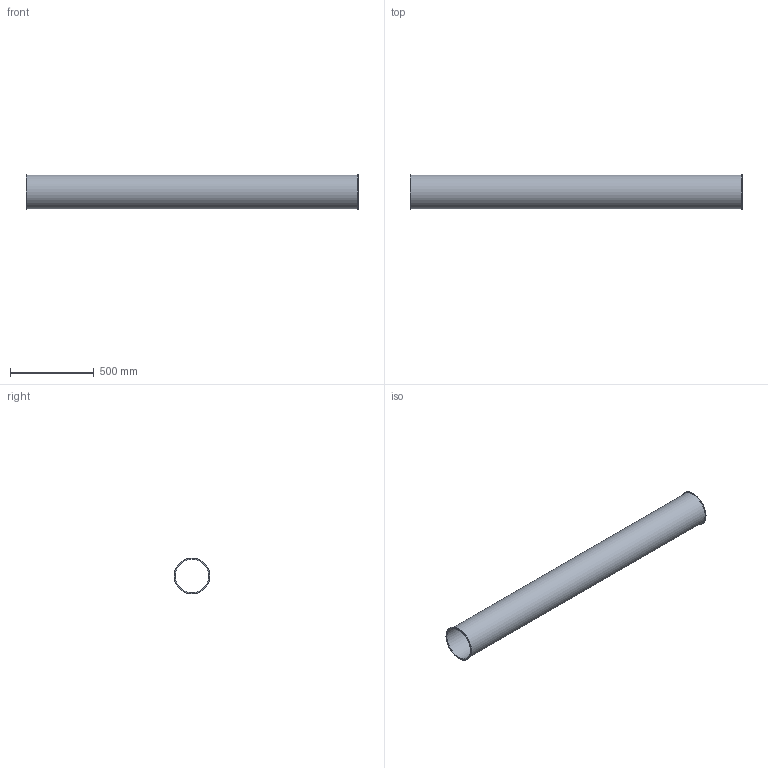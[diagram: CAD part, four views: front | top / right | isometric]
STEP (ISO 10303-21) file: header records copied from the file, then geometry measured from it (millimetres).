
FILE_DESCRIPTION((''),'2;1');
FILE_NAME('U:\Wolfgang\Marcel-3D\fertig\Kapitel 1\2021001.stp','2010-05-31T11:16:32',('TK2'),(''),'Autodesk Inventor 2010','Autodesk Inventor 2010','');
FILE_SCHEMA(('AUTOMOTIVE_DESIGN { 1 0 10303 214 1 1 1 1 }'));
Length unit declared in the file: millimetre
Products named in the file (1): 2021001
Bounding box: 1986 x 215 x 215 mm (x, y, z)
Volume: 2523917.8 mm3; surface area: 2526594.5 mm2
Topology: 1 solids, 1 shells, 8 faces, 12 edges, 8 vertices
Faces by surface type: cylinder 4, plane 4
Full cylindrical faces by diameter (mm): 199 x1, 203 x1, 215 x2
Entity records: 194 total; most frequent: DIRECTION 34, CARTESIAN_POINT 25, AXIS2_PLACEMENT_3D 17, ORIENTED_EDGE 16, EDGE_LOOP 16, VERTEX_POINT 8, CIRCLE 8, EDGE_CURVE 8
